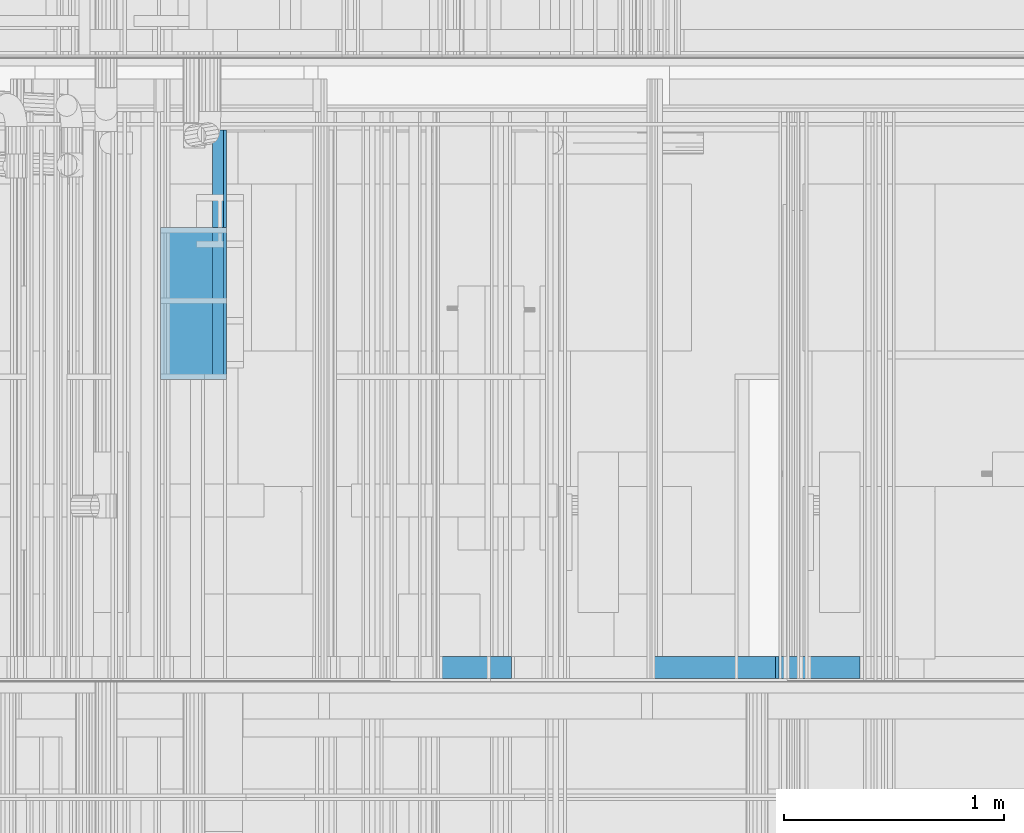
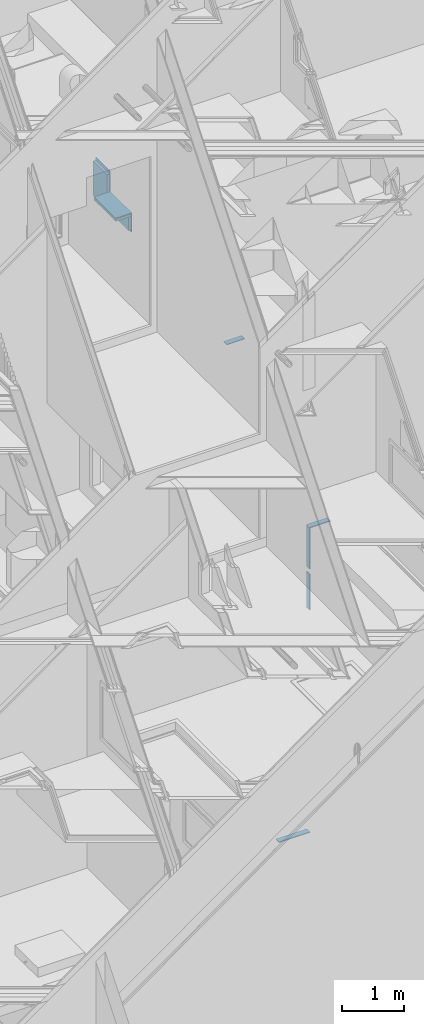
# One storey, part 232 of 583: 11 building element parts, 7 elements without a shape of their own.
"""IFC2X3 building model written with IfcOpenShell, lengths in metres."""

from ifc_helpers import new_model, entity, si_unit, converted_unit, derived_unit, money_unit, direction, frame, frame_2d, origin_with_axes, place, context, subcontext, project, spatial, polyline, rectangle, outline, extrude, material, type_object, element, aggregate, save


model = new_model("IFC2X3")

# Units and contexts
model_context = context("Model", 3, precision=1e-05, world=origin_with_axes(), true_north=direction((0.0, 1.0)))
body_context = subcontext(model_context, "Body", "Model", "MODEL_VIEW", scale=1.0)
ifc_project = project(units=[si_unit("LENGTHUNIT", "METRE"), si_unit("AREAUNIT", "SQUARE_METRE"), si_unit("VOLUMEUNIT", "CUBIC_METRE"), si_unit("ABSORBEDDOSEUNIT", "GRAY"), si_unit("AMOUNTOFSUBSTANCEUNIT", "MOLE"), si_unit("DOSEEQUIVALENTUNIT", "SIEVERT"), si_unit("ELECTRICCAPACITANCEUNIT", "FARAD"), si_unit("ELECTRICCHARGEUNIT", "COULOMB"), si_unit("ELECTRICCONDUCTANCEUNIT", "SIEMENS"), si_unit("ELECTRICCURRENTUNIT", "AMPERE"), si_unit("ELECTRICRESISTANCEUNIT", "OHM"), si_unit("ELECTRICVOLTAGEUNIT", "VOLT"), si_unit("ENERGYUNIT", "JOULE"), si_unit("FORCEUNIT", "NEWTON"), si_unit("FREQUENCYUNIT", "HERTZ"), si_unit("ILLUMINANCEUNIT", "LUX"), si_unit("INDUCTANCEUNIT", "HENRY"), si_unit("LUMINOUSFLUXUNIT", "LUMEN"), si_unit("LUMINOUSINTENSITYUNIT", "CANDELA"), si_unit("MAGNETICFLUXDENSITYUNIT", "TESLA"), si_unit("MAGNETICFLUXUNIT", "WEBER"), si_unit("MASSUNIT", "GRAM"), converted_unit("PLANEANGLEUNIT", "degree", entity("IfcReal", 0.0174532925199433), si_unit("PLANEANGLEUNIT", "RADIAN"), dimensions=[0, 0, 0, 0, 0, 0, 0]), si_unit("POWERUNIT", "WATT"), si_unit("PRESSUREUNIT", "PASCAL"), si_unit("RADIOACTIVITYUNIT", "BECQUEREL"), si_unit("SOLIDANGLEUNIT", "STERADIAN"), si_unit("THERMODYNAMICTEMPERATUREUNIT", "KELVIN"), si_unit("TIMEUNIT", "SECOND"), derived_unit("ACCELERATIONUNIT", [(si_unit("LENGTHUNIT", "METRE"), 1), (si_unit("TIMEUNIT", "SECOND"), -2)]), derived_unit("ANGULARVELOCITYUNIT", [(converted_unit("PLANEANGLEUNIT", "degree", entity("IfcReal", 0.0174532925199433), si_unit("PLANEANGLEUNIT", "RADIAN"), dimensions=[0, 0, 0, 0, 0, 0, 0]), 1), (si_unit("TIMEUNIT", "SECOND"), -1)]), derived_unit("CURVATUREUNIT", [(converted_unit("PLANEANGLEUNIT", "degree", entity("IfcReal", 0.0174532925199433), si_unit("PLANEANGLEUNIT", "RADIAN"), dimensions=[0, 0, 0, 0, 0, 0, 0]), 1), (si_unit("LENGTHUNIT", "METRE"), -1)]), derived_unit("DYNAMICVISCOSITYUNIT", [(si_unit("PRESSUREUNIT", "PASCAL"), 1), (si_unit("TIMEUNIT", "SECOND"), 1)]), derived_unit("HEATFLUXDENSITYUNIT", [(si_unit("POWERUNIT", "WATT"), 1), (si_unit("LENGTHUNIT", "METRE"), -2)]), derived_unit("HEATINGVALUEUNIT", [(si_unit("ENERGYUNIT", "JOULE"), 1), (si_unit("MASSUNIT", "GRAM"), -1)]), derived_unit("INTEGERCOUNTRATEUNIT", [(si_unit("TIMEUNIT", "SECOND"), -1)]), derived_unit("IONCONCENTRATIONUNIT", [(si_unit("MASSUNIT", "GRAM"), 1), (si_unit("VOLUMEUNIT", "CUBIC_METRE"), -1)]), derived_unit("ISOTHERMALMOISTURECAPACITYUNIT", [(si_unit("VOLUMEUNIT", "CUBIC_METRE"), 1), (si_unit("MASSUNIT", "GRAM"), -1)]), derived_unit("KINEMATICVISCOSITYUNIT", [(si_unit("AREAUNIT", "SQUARE_METRE"), 1), (si_unit("TIMEUNIT", "SECOND"), -1)]), derived_unit("LINEARFORCEUNIT", [(si_unit("FORCEUNIT", "NEWTON"), 1), (si_unit("LENGTHUNIT", "METRE"), -1)]), derived_unit("LINEARMOMENTUNIT", [(si_unit("FORCEUNIT", "NEWTON"), 1), (si_unit("LENGTHUNIT", "METRE"), -1)]), derived_unit("LINEARSTIFFNESSUNIT", [(si_unit("FORCEUNIT", "NEWTON"), 1), (si_unit("LENGTHUNIT", "METRE"), -1)]), derived_unit("LINEARVELOCITYUNIT", [(si_unit("LENGTHUNIT", "METRE"), 1), (si_unit("TIMEUNIT", "SECOND"), -1)]), derived_unit("LUMINOUSINTENSITYDISTRIBUTIONUNIT", [(si_unit("LUMINOUSINTENSITYUNIT", "CANDELA"), 1), (si_unit("LUMINOUSFLUXUNIT", "LUMEN"), -1)]), derived_unit("MASSDENSITYUNIT", [(si_unit("MASSUNIT", "GRAM"), 1), (si_unit("VOLUMEUNIT", "CUBIC_METRE"), -1)]), derived_unit("MASSFLOWRATEUNIT", [(si_unit("MASSUNIT", "GRAM"), 1), (si_unit("TIMEUNIT", "SECOND"), -1)]), derived_unit("MASSPERLENGTHUNIT", [(si_unit("MASSUNIT", "GRAM"), 1), (si_unit("LENGTHUNIT", "METRE"), -1)]), derived_unit("MODULUSOFELASTICITYUNIT", [(si_unit("FORCEUNIT", "NEWTON"), 1), (si_unit("AREAUNIT", "SQUARE_METRE"), -1)]), derived_unit("MODULUSOFLINEARSUBGRADEREACTIONUNIT", [(si_unit("FORCEUNIT", "NEWTON"), 1), (si_unit("LENGTHUNIT", "METRE"), -2)]), derived_unit("MODULUSOFROTATIONALSUBGRADEREACTIONUNIT", [(si_unit("FORCEUNIT", "NEWTON"), 1), (si_unit("LENGTHUNIT", "METRE"), 1)]), derived_unit("MODULUSOFSUBGRADEREACTIONUNIT", [(si_unit("FORCEUNIT", "NEWTON"), 1), (si_unit("VOLUMEUNIT", "CUBIC_METRE"), -1)]), derived_unit("MOISTUREDIFFUSIVITYUNIT", [(si_unit("VOLUMEUNIT", "CUBIC_METRE"), 1), (si_unit("TIMEUNIT", "SECOND"), -1)]), derived_unit("MOLECULARWEIGHTUNIT", [(si_unit("MASSUNIT", "GRAM"), 1), (si_unit("AMOUNTOFSUBSTANCEUNIT", "MOLE"), -1)]), derived_unit("PLANARFORCEUNIT", [(si_unit("FORCEUNIT", "NEWTON"), 1), (si_unit("LENGTHUNIT", "METRE"), -2)]), derived_unit("ROTATIONALFREQUENCYUNIT", [(si_unit("TIMEUNIT", "SECOND"), -1)]), derived_unit("ROTATIONALMASSUNIT", [(si_unit("MASSUNIT", "GRAM"), 1), (si_unit("LENGTHUNIT", "METRE"), 2)]), derived_unit("ROTATIONALSTIFFNESSUNIT", [(si_unit("FORCEUNIT", "NEWTON"), 1), (si_unit("LENGTHUNIT", "METRE"), 1), (converted_unit("PLANEANGLEUNIT", "degree", entity("IfcReal", 0.0174532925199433), si_unit("PLANEANGLEUNIT", "RADIAN"), dimensions=[0, 0, 0, 0, 0, 0, 0]), -1)]), derived_unit("SECTIONAREAINTEGRALUNIT", [(si_unit("LENGTHUNIT", "METRE"), 5)]), derived_unit("SECTIONMODULUSUNIT", [(si_unit("LENGTHUNIT", "METRE"), 3)]), derived_unit("SHEARMODULUSUNIT", [(si_unit("FORCEUNIT", "NEWTON"), 1), (si_unit("AREAUNIT", "SQUARE_METRE"), -1)]), derived_unit("SOUNDPOWERUNIT", [(si_unit("ENERGYUNIT", "JOULE"), 1), (si_unit("TIMEUNIT", "SECOND"), -1)]), derived_unit("SPECIFICHEATCAPACITYUNIT", [(si_unit("FORCEUNIT", "NEWTON"), 1), (si_unit("MASSUNIT", "GRAM"), -1), (si_unit("THERMODYNAMICTEMPERATUREUNIT", "KELVIN"), -1)]), derived_unit("TEMPERATUREGRADIENTUNIT", [(si_unit("THERMODYNAMICTEMPERATUREUNIT", "KELVIN"), 1), (si_unit("LENGTHUNIT", "METRE"), -1)]), derived_unit("THERMALADMITTANCEUNIT", [(si_unit("POWERUNIT", "WATT"), 1), (si_unit("AREAUNIT", "SQUARE_METRE"), -1), (si_unit("THERMODYNAMICTEMPERATUREUNIT", "KELVIN"), -1)]), derived_unit("THERMALCONDUCTANCEUNIT", [(si_unit("POWERUNIT", "WATT"), 1), (si_unit("LENGTHUNIT", "METRE"), -1), (si_unit("THERMODYNAMICTEMPERATUREUNIT", "KELVIN"), -1)]), derived_unit("THERMALEXPANSIONCOEFFICIENTUNIT", [(si_unit("THERMODYNAMICTEMPERATUREUNIT", "KELVIN"), -1)]), derived_unit("THERMALRESISTANCEUNIT", [(si_unit("AREAUNIT", "SQUARE_METRE"), 1), (si_unit("POWERUNIT", "WATT"), -1)]), derived_unit("THERMALTRANSMITTANCEUNIT", [(si_unit("POWERUNIT", "WATT"), 1), (si_unit("AREAUNIT", "SQUARE_METRE"), -1), (si_unit("THERMODYNAMICTEMPERATUREUNIT", "KELVIN"), -1)]), derived_unit("TORQUEUNIT", [(si_unit("FORCEUNIT", "NEWTON"), 1), (si_unit("LENGTHUNIT", "METRE"), 1)]), derived_unit("VAPORPERMEABILITYUNIT", [(si_unit("MASSUNIT", "GRAM"), 1), (si_unit("TIMEUNIT", "SECOND"), -1)]), derived_unit("VOLUMETRICFLOWRATEUNIT", [(si_unit("VOLUMEUNIT", "CUBIC_METRE"), 1), (si_unit("TIMEUNIT", "SECOND"), -1)]), derived_unit("WARPINGCONSTANTUNIT", [(si_unit("LENGTHUNIT", "METRE"), 6)]), derived_unit("WARPINGMOMENTUNIT", [(si_unit("FORCEUNIT", "NEWTON"), 1), (si_unit("LENGTHUNIT", "METRE"), 2)]), money_unit("GBP")], contexts=[model_context])

# Site, building, storey
site_placement = place(None, origin_with_axes())
site = spatial("IfcSite", under=ifc_project, at=site_placement, Name="Site", CompositionType="ELEMENT")
building_placement = place(site_placement, origin_with_axes())
building = spatial("IfcBuilding", under=site, at=building_placement, Name="Building01", CompositionType="ELEMENT")
storey_placement = place(building_placement, frame((0.0, 0.0, 20.78), z_axis=(0.0, 0.0, 1.0), x_axis=(1.0, 0.0, 0.0)))
storey = spatial("IfcBuildingStorey", under=building, at=storey_placement, Name="RL", CompositionType="ELEMENT", Elevation=20.78)

# Wall, building element part
wall_type_1 = type_object("IfcWallType", Name="SHE_A-Walls_Type06d_ExternalWallInsulation_48mm", PredefinedType="NOTDEFINED")
wall_1_placement = place(storey_placement, frame((14.45, 12.13, -20.51), z_axis=(0.0, 1.0, 0.0), x_axis=(-1.0, 0.0, 0.0)))
wall_1 = element("IfcWall", 1, at=wall_1_placement, inside=storey, type_object=wall_type_1, Name="6D", ObjectType="SHE_A-Walls_Type06d_ExternalWallInsulation_48mm")
ifc_material_1 = material(Name="A_BSUK_Walls_Timber")
building_element_part_1_placement = place(wall_1_placement, origin_with_axes())
building_element_part_1 = element("IfcBuildingElementPart", 2, at=building_element_part_1_placement, material=ifc_material_1, Name="3", context=body_context, shape_type="SweptSolid", body=[
    extrude(rectangle(XDim=0.015, YDim=0.57567, at=frame_2d((3.107165, 0.0555), x_axis=(0.0, -1.0))), frame((0.0, 0.0, 0.015), z_axis=(0.0, 0.0, 1.0), x_axis=(1.0, 0.0, 0.0)), (0.0, 0.0, 1.0), 0.1),
])
aggregate(wall_1, [building_element_part_1])

# Wall, building element parts
wall_type_2 = type_object("IfcWallType", Name="SHE_A-Walls_Type05c_PreWallShell_65mm", PredefinedType="NOTDEFINED")
wall_2_placement = place(storey_placement, frame((9.055, 14.195, -8.626129), z_axis=(0.0, 1.0, 0.0), x_axis=(0.0, 0.0, 1.0)))
wall_2 = element("IfcWall", 3, at=wall_2_placement, inside=storey, type_object=wall_type_2, Name="5C", ObjectType="SHE_A-Walls_Type05c_PreWallShell_65mm")
ifc_material_2 = material(Name="A_BSUK_OpeningsClearance")
placement_1 = place(wall_2_placement, origin_with_axes())
building_element_part_2 = element("IfcBuildingElementPart", 4, at=placement_1, material=ifc_material_2, Name="1", context=body_context, shape_type="SweptSolid", body=[
    extrude(rectangle(XDim=0.674714, YDim=0.05, at=frame_2d((0.337357, 0.025), x_axis=(-1.0, 0.0))), origin_with_axes(), (0.0, 0.0, 1.0), 0.445),
])
building_element_part_3 = element("IfcBuildingElementPart", 5, at=placement_1, material=ifc_material_1, Name="2", context=body_context, shape_type="SweptSolid", body=[
    extrude(rectangle(XDim=0.774714, YDim=0.015, at=frame_2d((0.337357, 0.0575), x_axis=(-1.0, 0.0))), origin_with_axes(), (0.0, 0.0, 1.0), 0.445),
])
aggregate(wall_2, [building_element_part_2, building_element_part_3])

wall_3_placement = place(storey_placement, frame((9.055, 13.505, -8.626129), z_axis=(0.0, 1.0, 0.0), x_axis=(0.0, 0.0, 1.0)))
wall_3 = element("IfcWall", 6, at=wall_3_placement, inside=storey, type_object=wall_type_2, Name="5C", ObjectType="SHE_A-Walls_Type05c_PreWallShell_65mm")
placement_2 = place(wall_3_placement, origin_with_axes())
building_element_part_4 = element("IfcBuildingElementPart", 7, at=placement_2, material=ifc_material_2, Name="1", context=body_context, shape_type="SweptSolid", body=[
    extrude(rectangle(XDim=0.259714, YDim=0.05, at=frame_2d((0.129857, 0.025), x_axis=(-1.0, 0.0))), origin_with_axes(), (0.0, 0.0, 1.0), 0.69),
])
building_element_part_5 = element("IfcBuildingElementPart", 8, at=placement_2, material=ifc_material_1, Name="2", context=body_context, shape_type="SweptSolid", body=[
    extrude(rectangle(XDim=0.359714, YDim=0.015, at=frame_2d((0.129857, 0.0575), x_axis=(-1.0, 0.0))), origin_with_axes(), (0.0, 0.0, 1.0), 0.69),
])
aggregate(wall_3, [building_element_part_4, building_element_part_5])

wall_4_placement = place(storey_placement, frame((9.105, 13.505, -8.366415), z_axis=(0.0, 1.0, 0.0), x_axis=(-1.0, 0.0, 0.0)))
wall_4 = element("IfcWall", 9, at=wall_4_placement, inside=storey, type_object=wall_type_2, Name="5C", ObjectType="SHE_A-Walls_Type05c_PreWallShell_65mm")
placement_3 = place(wall_4_placement, origin_with_axes())
building_element_part_6 = element("IfcBuildingElementPart", 10, at=placement_3, material=ifc_material_2, Name="1", context=body_context, shape_type="SweptSolid", body=[
    extrude(rectangle(XDim=0.285, YDim=0.05, at=frame_2d((0.1425, 0.025), x_axis=(-1.0, 0.0))), origin_with_axes(), (0.0, 0.0, 1.0), 0.69),
])
building_element_part_7 = element("IfcBuildingElementPart", 11, at=placement_3, material=ifc_material_1, Name="2", context=body_context, shape_type="SweptSolid", body=[
    extrude(rectangle(XDim=0.3, YDim=0.015, at=frame_2d((0.135, 0.0575), x_axis=(-1.0, 0.0))), origin_with_axes(), (0.0, 0.0, 1.0), 0.69),
])
aggregate(wall_4, [building_element_part_6, building_element_part_7])

# Wall, building element part
wall_type_3 = type_object("IfcWallType", Name="SHE_A-Walls_Type05a_Partition_95mm_tall", PredefinedType="NOTDEFINED")
wall_5_placement = place(storey_placement, frame((11.66567, 12.13, -14.550331), z_axis=(0.0, 1.0, 0.0), x_axis=(1.0, 0.0, 0.0)))
wall_5 = element("IfcWall", 12, at=wall_5_placement, inside=storey, type_object=wall_type_3, Name="5A", ObjectType="SHE_A-Walls_Type05a_Partition_95mm_tall")
building_element_part_8_placement = place(wall_5_placement, origin_with_axes())
building_element_part_8 = element("IfcBuildingElementPart", 13, at=building_element_part_8_placement, material=ifc_material_1, Name="3", context=body_context, shape_type="SweptSolid", body=[
    extrude(outline(polyline([(0.35, -0.035), (-0.035, -0.035), (-0.05, -0.05), (0.335, -0.05), (0.35, -0.035)])), frame((0.0, 0.0, 0.015), z_axis=(0.0, 0.0, 1.0), x_axis=(1.0, 0.0, 0.0)), (0.0, 0.0, 1.0), 0.1),
])
aggregate(wall_5, [building_element_part_8])

# Wall, building element parts
wall_6_placement = place(storey_placement, frame((11.66567, 12.13, -16.110331), z_axis=(0.0, 1.0, 0.0), x_axis=(0.0, 0.0, 1.0)))
wall_6 = element("IfcWall", 14, at=wall_6_placement, inside=storey, type_object=wall_type_3, Name="5A", ObjectType="SHE_A-Walls_Type05a_Partition_95mm_tall")
placement_4 = place(wall_6_placement, origin_with_axes())
building_element_part_9 = element("IfcBuildingElementPart", 15, at=placement_4, material=ifc_material_1, Name="3", context=body_context, shape_type="SweptSolid", body=[
    extrude(rectangle(XDim=0.7, YDim=0.015, at=frame_2d((0.35, -0.0425), x_axis=(-1.0, 0.0))), frame((0.0, 0.0, 0.015), z_axis=(0.0, 0.0, 1.0), x_axis=(1.0, 0.0, 0.0)), (0.0, 0.0, 1.0), 0.1),
])
building_element_part_10 = element("IfcBuildingElementPart", 16, at=placement_4, material=ifc_material_1, Name="4", context=body_context, shape_type="SweptSolid", body=[
    extrude(outline(polyline([(1.595, -0.035), (0.795, -0.035), (0.795, -0.05), (1.61, -0.05), (1.595, -0.035)])), frame((0.0, 0.0, 0.015), z_axis=(0.0, 0.0, 1.0), x_axis=(1.0, 0.0, 0.0)), (0.0, 0.0, 1.0), 0.1),
])
aggregate(wall_6, [building_element_part_9, building_element_part_10])

# Wall, building element part
wall_7_placement = place(storey_placement, frame((8.82, 12.13, -10.326129), z_axis=(0.0, 1.0, 0.0), x_axis=(1.0, 0.0, 0.0)))
wall_7 = element("IfcWall", 17, at=wall_7_placement, inside=storey, type_object=wall_type_3, Name="5A", ObjectType="SHE_A-Walls_Type05a_Partition_95mm_tall")
building_element_part_11_placement = place(wall_7_placement, origin_with_axes())
building_element_part_11 = element("IfcBuildingElementPart", 18, at=building_element_part_11_placement, material=ifc_material_1, Name="4", context=body_context, shape_type="SweptSolid", body=[
    extrude(outline(polyline([(1.61, 0.075), (1.267704, 0.075), (1.267704, 0.06), (1.595, 0.06), (1.61, 0.075)])), frame((0.0, 0.0, 0.015), z_axis=(0.0, 0.0, 1.0), x_axis=(1.0, 0.0, 0.0)), (0.0, 0.0, 1.0), 0.1),
])
aggregate(wall_7, [building_element_part_11])

save(model, "model.ifc")
